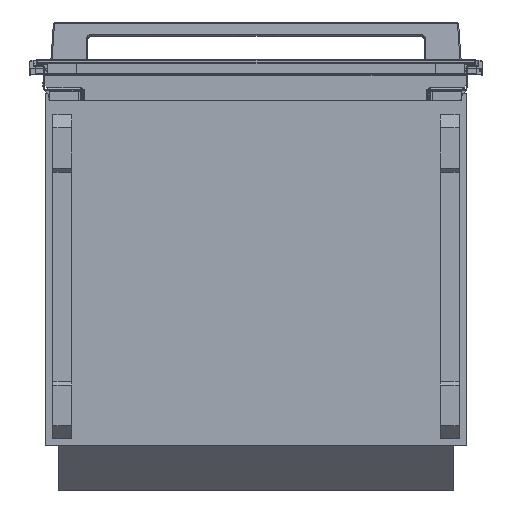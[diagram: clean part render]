
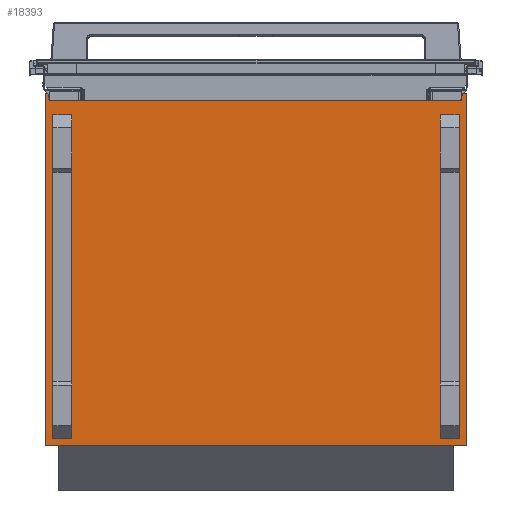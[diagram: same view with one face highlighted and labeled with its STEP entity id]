
A CAD part, front view. The second image highlights one B-rep face of the part: STEP entity #18393.
In plain terms, the highlighted planar face has unit normal (0, -1, 0).
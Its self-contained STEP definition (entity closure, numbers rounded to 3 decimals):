
#82 = EDGE_CURVE ( 'NONE', #9349, #5140, #2326, .T. ) ;
#89 = ORIENTED_EDGE ( 'NONE', *, *, #8364, .F. ) ;
#117 = DIRECTION ( 'NONE',  ( 0., 0., 1. ) ) ;
#124 = CARTESIAN_POINT ( 'NONE',  ( 267.5, 87.543, 39.793 ) ) ;
#308 = ORIENTED_EDGE ( 'NONE', *, *, #14731, .T. ) ;
#578 = LINE ( 'NONE', #3779, #4229 ) ;
#1284 = EDGE_CURVE ( 'NONE', #5140, #17841, #10119, .T. ) ;
#1334 = VECTOR ( 'NONE', #4880, 1000. ) ;
#1336 = VERTEX_POINT ( 'NONE', #9557 ) ;
#1688 = CARTESIAN_POINT ( 'NONE',  ( 242.5, 87.543, 466.293 ) ) ;
#1715 = FACE_BOUND ( 'NONE', #6463, .T. ) ;
#1995 = CARTESIAN_POINT ( 'NONE',  ( -261.55, 87.543, 466.293 ) ) ;
#2087 = EDGE_CURVE ( 'NONE', #17841, #1336, #578, .T. ) ;
#2258 = ORIENTED_EDGE ( 'NONE', *, *, #3802, .F. ) ;
#2301 = CARTESIAN_POINT ( 'NONE',  ( 277.55, 87.543, 30.293 ) ) ;
#2316 = LINE ( 'NONE', #15464, #18272 ) ;
#2326 = LINE ( 'NONE', #1995, #1334 ) ;
#2428 = CARTESIAN_POINT ( 'NONE',  ( -267.5, 87.543, 39.793 ) ) ;
#2583 = ORIENTED_EDGE ( 'NONE', *, *, #2087, .F. ) ;
#3121 = CARTESIAN_POINT ( 'NONE',  ( 242.5, 87.543, 39.793 ) ) ;
#3413 = VERTEX_POINT ( 'NONE', #2301 ) ;
#3461 = LINE ( 'NONE', #8863, #15418 ) ;
#3779 = CARTESIAN_POINT ( 'NONE',  ( -261.55, 87.543, 39.793 ) ) ;
#3802 = EDGE_CURVE ( 'NONE', #6858, #19336, #5385, .T. ) ;
#4199 = VERTEX_POINT ( 'NONE', #16085 ) ;
#4229 = VECTOR ( 'NONE', #13131, 1000. ) ;
#4272 = VECTOR ( 'NONE', #10225, 1000. ) ;
#4312 = LINE ( 'NONE', #8065, #13188 ) ;
#4684 = EDGE_CURVE ( 'NONE', #9349, #1336, #3461, .T. ) ;
#4880 = DIRECTION ( 'NONE',  ( -1., 0., 0. ) ) ;
#5101 = ORIENTED_EDGE ( 'NONE', *, *, #7780, .F. ) ;
#5140 = VERTEX_POINT ( 'NONE', #8351 ) ;
#5141 = DIRECTION ( 'NONE',  ( 0., 0., -1. ) ) ;
#5385 = LINE ( 'NONE', #8235, #9589 ) ;
#5400 = EDGE_LOOP ( 'NONE', ( #12138, #8274, #2583, #12569 ) ) ;
#5815 = PLANE ( 'NONE',  #9010 ) ;
#6075 = CARTESIAN_POINT ( 'NONE',  ( -277.55, 87.543, 30.293 ) ) ;
#6148 = ORIENTED_EDGE ( 'NONE', *, *, #20027, .F. ) ;
#6463 = EDGE_LOOP ( 'NONE', ( #2258, #7769, #5101, #6148 ) ) ;
#6808 = EDGE_CURVE ( 'NONE', #6858, #13443, #15787, .T. ) ;
#6858 = VERTEX_POINT ( 'NONE', #17735 ) ;
#7084 = EDGE_CURVE ( 'NONE', #14743, #17226, #7269, .T. ) ;
#7269 = LINE ( 'NONE', #12603, #14623 ) ;
#7289 = DIRECTION ( 'NONE',  ( 1., 0., 0. ) ) ;
#7432 = DIRECTION ( 'NONE',  ( 0., 1., 0. ) ) ;
#7769 = ORIENTED_EDGE ( 'NONE', *, *, #6808, .T. ) ;
#7780 = EDGE_CURVE ( 'NONE', #10056, #13443, #16671, .T. ) ;
#7784 = CARTESIAN_POINT ( 'NONE',  ( -242.5, 87.543, 466.293 ) ) ;
#8065 = CARTESIAN_POINT ( 'NONE',  ( 242.5, 87.543, 493.993 ) ) ;
#8171 = DIRECTION ( 'NONE',  ( -1., 0., 0. ) ) ;
#8235 = CARTESIAN_POINT ( 'NONE',  ( -261.55, 87.543, 466.293 ) ) ;
#8274 = ORIENTED_EDGE ( 'NONE', *, *, #4684, .T. ) ;
#8351 = CARTESIAN_POINT ( 'NONE',  ( -267.5, 87.543, 466.293 ) ) ;
#8364 = EDGE_CURVE ( 'NONE', #3413, #14743, #12667, .T. ) ;
#8641 = CARTESIAN_POINT ( 'NONE',  ( 277.55, 87.543, 30.293 ) ) ;
#8652 = DIRECTION ( 'NONE',  ( 0., 0., -1. ) ) ;
#8692 = CARTESIAN_POINT ( 'NONE',  ( 277.55, 87.543, 493.993 ) ) ;
#8821 = EDGE_CURVE ( 'NONE', #3413, #4199, #8941, .T. ) ;
#8863 = CARTESIAN_POINT ( 'NONE',  ( -242.5, 87.543, 493.993 ) ) ;
#8941 = LINE ( 'NONE', #8692, #16635 ) ;
#9010 = AXIS2_PLACEMENT_3D ( 'NONE', #15210, #7432, #18217 ) ;
#9349 = VERTEX_POINT ( 'NONE', #7784 ) ;
#9557 = CARTESIAN_POINT ( 'NONE',  ( -242.5, 87.543, 39.793 ) ) ;
#9589 = VECTOR ( 'NONE', #8171, 1000. ) ;
#9832 = EDGE_LOOP ( 'NONE', ( #12752, #89, #17808, #308 ) ) ;
#10056 = VERTEX_POINT ( 'NONE', #3121 ) ;
#10119 = LINE ( 'NONE', #13775, #17786 ) ;
#10225 = DIRECTION ( 'NONE',  ( -1., 0., 0. ) ) ;
#11730 = VECTOR ( 'NONE', #5141, 1000. ) ;
#12138 = ORIENTED_EDGE ( 'NONE', *, *, #82, .F. ) ;
#12204 = DIRECTION ( 'NONE',  ( 0., 0., -1. ) ) ;
#12569 = ORIENTED_EDGE ( 'NONE', *, *, #1284, .F. ) ;
#12603 = CARTESIAN_POINT ( 'NONE',  ( -277.55, 87.543, 493.993 ) ) ;
#12667 = LINE ( 'NONE', #8641, #4272 ) ;
#12752 = ORIENTED_EDGE ( 'NONE', *, *, #7084, .F. ) ;
#13131 = DIRECTION ( 'NONE',  ( 1., 0., 0. ) ) ;
#13188 = VECTOR ( 'NONE', #18826, 1000. ) ;
#13443 = VERTEX_POINT ( 'NONE', #124 ) ;
#13720 = FACE_OUTER_BOUND ( 'NONE', #9832, .T. ) ;
#13775 = CARTESIAN_POINT ( 'NONE',  ( -267.5, 87.543, 493.993 ) ) ;
#14623 = VECTOR ( 'NONE', #117, 1000. ) ;
#14731 = EDGE_CURVE ( 'NONE', #4199, #17226, #2316, .T. ) ;
#14743 = VERTEX_POINT ( 'NONE', #6075 ) ;
#15210 = CARTESIAN_POINT ( 'NONE',  ( -261.55, 87.543, 493.993 ) ) ;
#15418 = VECTOR ( 'NONE', #8652, 1000. ) ;
#15464 = CARTESIAN_POINT ( 'NONE',  ( 277.55, 87.543, 493.993 ) ) ;
#15787 = LINE ( 'NONE', #15922, #11730 ) ;
#15922 = CARTESIAN_POINT ( 'NONE',  ( 267.5, 87.543, 493.993 ) ) ;
#16085 = CARTESIAN_POINT ( 'NONE',  ( 277.55, 87.543, 493.993 ) ) ;
#16635 = VECTOR ( 'NONE', #17902, 1000. ) ;
#16671 = LINE ( 'NONE', #18091, #19778 ) ;
#16933 = DIRECTION ( 'NONE',  ( -1., 0., 0. ) ) ;
#17226 = VERTEX_POINT ( 'NONE', #17645 ) ;
#17645 = CARTESIAN_POINT ( 'NONE',  ( -277.55, 87.543, 493.993 ) ) ;
#17679 = FACE_BOUND ( 'NONE', #5400, .T. ) ;
#17735 = CARTESIAN_POINT ( 'NONE',  ( 267.5, 87.543, 466.293 ) ) ;
#17786 = VECTOR ( 'NONE', #12204, 1000. ) ;
#17808 = ORIENTED_EDGE ( 'NONE', *, *, #8821, .T. ) ;
#17841 = VERTEX_POINT ( 'NONE', #2428 ) ;
#17902 = DIRECTION ( 'NONE',  ( 0., 0., 1. ) ) ;
#18091 = CARTESIAN_POINT ( 'NONE',  ( -261.55, 87.543, 39.793 ) ) ;
#18217 = DIRECTION ( 'NONE',  ( 1., 0., 0. ) ) ;
#18272 = VECTOR ( 'NONE', #16933, 1000. ) ;
#18393 = ADVANCED_FACE ( 'NONE', ( #17679, #1715, #13720 ), #5815, .F. ) ;
#18826 = DIRECTION ( 'NONE',  ( 0., 0., -1. ) ) ;
#19336 = VERTEX_POINT ( 'NONE', #1688 ) ;
#19778 = VECTOR ( 'NONE', #7289, 1000. ) ;
#20027 = EDGE_CURVE ( 'NONE', #19336, #10056, #4312, .T. ) ;
